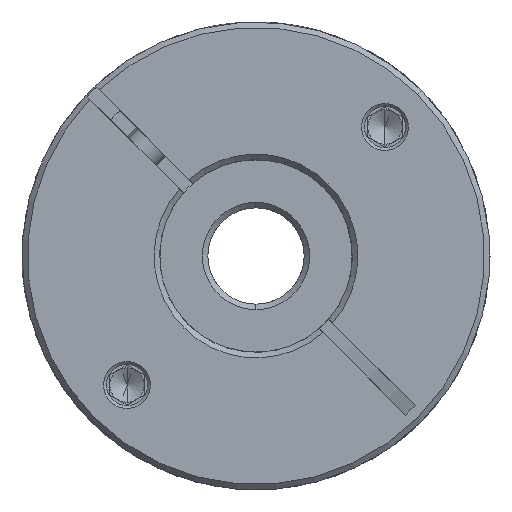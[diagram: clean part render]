
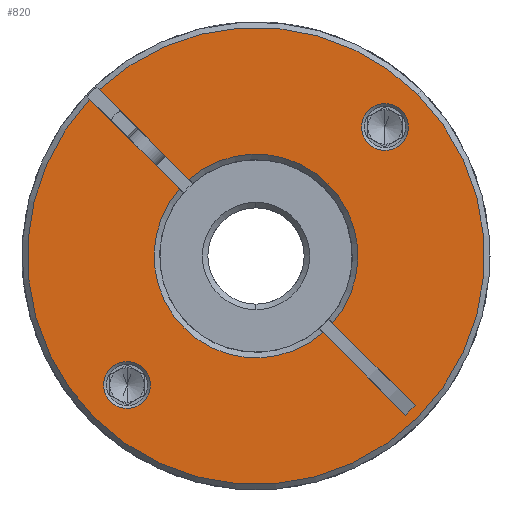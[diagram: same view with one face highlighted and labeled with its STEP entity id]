
A CAD part, front view. The second image highlights one B-rep face of the part: STEP entity #820.
In plain terms, the highlighted planar face has unit normal (0, -1, 0).
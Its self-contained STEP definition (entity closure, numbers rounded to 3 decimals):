
#51 = CARTESIAN_POINT ( 'NONE',  ( -2.735, -67.045, 68. ) ) ;
#187 = CIRCLE ( 'NONE', #16822, 33.2 ) ;
#274 = EDGE_CURVE ( 'NONE', #3658, #8476, #2622, .T. ) ;
#359 = VERTEX_POINT ( 'NONE', #18424 ) ;
#529 = CARTESIAN_POINT ( 'NONE',  ( 13.599, -67.045, 84.334 ) ) ;
#646 = CARTESIAN_POINT ( 'NONE',  ( -2.028, -67.045, 68.707 ) ) ;
#820 = ADVANCED_FACE ( 'NONE', ( #4068, #19927, #11088 ), #7141, .T. ) ;
#1250 = CARTESIAN_POINT ( 'NONE',  ( -2.735, -67.045, 68. ) ) ;
#1651 = AXIS2_PLACEMENT_3D ( 'NONE', #1688, #5143, #6669 ) ;
#1677 = EDGE_CURVE ( 'NONE', #2885, #19173, #17040, .T. ) ;
#1688 = CARTESIAN_POINT ( 'NONE',  ( -21.473, -67.045, 49.262 ) ) ;
#1796 = VECTOR ( 'NONE', #9259, 1000. ) ;
#2036 = DIRECTION ( 'NONE',  ( 0.707, 0., 0.707 ) ) ;
#2134 = CARTESIAN_POINT ( 'NONE',  ( 6.999, -67.045, 56.852 ) ) ;
#2474 = DIRECTION ( 'NONE',  ( 0.707, 0., 0.707 ) ) ;
#2476 = ORIENTED_EDGE ( 'NONE', *, *, #8673, .T. ) ;
#2571 = DIRECTION ( 'NONE',  ( -0.707, 0., -0.707 ) ) ;
#2621 = VECTOR ( 'NONE', #12152, 1000. ) ;
#2622 = CIRCLE ( 'NONE', #1651, 3.4 ) ;
#2885 = VERTEX_POINT ( 'NONE', #10301 ) ;
#3097 = CARTESIAN_POINT ( 'NONE',  ( -23.878, -67.045, 46.858 ) ) ;
#3160 = LINE ( 'NONE', #7143, #2621 ) ;
#3301 = ORIENTED_EDGE ( 'NONE', *, *, #8278, .F. ) ;
#3596 = ORIENTED_EDGE ( 'NONE', *, *, #13777, .T. ) ;
#3658 = VERTEX_POINT ( 'NONE', #16018 ) ;
#3844 = DIRECTION ( 'NONE',  ( 0.707, 0., -0.707 ) ) ;
#3857 = EDGE_CURVE ( 'NONE', #15000, #14480, #20830, .T. ) ;
#3882 = CIRCLE ( 'NONE', #4259, 33.2 ) ;
#4068 = FACE_BOUND ( 'NONE', #11051, .T. ) ;
#4095 = ORIENTED_EDGE ( 'NONE', *, *, #1677, .T. ) ;
#4259 = AXIS2_PLACEMENT_3D ( 'NONE', #51, #11650, #8415 ) ;
#4975 = DIRECTION ( 'NONE',  ( 0., 1., 0. ) ) ;
#4983 = AXIS2_PLACEMENT_3D ( 'NONE', #19344, #20944, #5916 ) ;
#4998 = CARTESIAN_POINT ( 'NONE',  ( 18.988, -67.045, 44.862 ) ) ;
#5143 = DIRECTION ( 'NONE',  ( 0., 1., 0. ) ) ;
#5489 = CARTESIAN_POINT ( 'NONE',  ( 16.003, -67.045, 86.738 ) ) ;
#5667 = AXIS2_PLACEMENT_3D ( 'NONE', #10459, #5832, #9024 ) ;
#5832 = DIRECTION ( 'NONE',  ( 0., -1., 0. ) ) ;
#5837 = VERTEX_POINT ( 'NONE', #16104 ) ;
#5916 = DIRECTION ( 'NONE',  ( 0.707, 0., 0.707 ) ) ;
#5998 = CIRCLE ( 'NONE', #10331, 3.4 ) ;
#6244 = CIRCLE ( 'NONE', #4983, 14.8 ) ;
#6259 = ORIENTED_EDGE ( 'NONE', *, *, #15471, .T. ) ;
#6669 = DIRECTION ( 'NONE',  ( 0.707, 0., 0.707 ) ) ;
#7091 = EDGE_CURVE ( 'NONE', #19173, #7511, #8914, .T. ) ;
#7141 = PLANE ( 'NONE',  #5667 ) ;
#7143 = CARTESIAN_POINT ( 'NONE',  ( -3.442, -67.045, 67.293 ) ) ;
#7490 = ORIENTED_EDGE ( 'NONE', *, *, #15168, .T. ) ;
#7495 = CARTESIAN_POINT ( 'NONE',  ( 18.988, -67.045, 44.862 ) ) ;
#7511 = VERTEX_POINT ( 'NONE', #11217 ) ;
#7549 = DIRECTION ( 'NONE',  ( 0., 1., 0. ) ) ;
#7638 = AXIS2_PLACEMENT_3D ( 'NONE', #14029, #7549, #2474 ) ;
#7781 = CARTESIAN_POINT ( 'NONE',  ( -25.493, -67.045, 92.172 ) ) ;
#7949 = ORIENTED_EDGE ( 'NONE', *, *, #14068, .T. ) ;
#8047 = DIRECTION ( 'NONE',  ( 0., -1., 0. ) ) ;
#8148 = VERTEX_POINT ( 'NONE', #2134 ) ;
#8151 = CARTESIAN_POINT ( 'NONE',  ( -2.735, -67.045, 68. ) ) ;
#8278 = EDGE_CURVE ( 'NONE', #12162, #359, #8709, .T. ) ;
#8314 = DIRECTION ( 'NONE',  ( 0.707, 0., 0.707 ) ) ;
#8415 = DIRECTION ( 'NONE',  ( 0.707, 0., 0.707 ) ) ;
#8434 = VERTEX_POINT ( 'NONE', #7781 ) ;
#8476 = VERTEX_POINT ( 'NONE', #3097 ) ;
#8673 = EDGE_CURVE ( 'NONE', #8476, #3658, #16803, .T. ) ;
#8709 = LINE ( 'NONE', #20509, #13405 ) ;
#8914 = LINE ( 'NONE', #646, #9934 ) ;
#9024 = DIRECTION ( 'NONE',  ( 0.707, 0., 0.707 ) ) ;
#9123 = ORIENTED_EDGE ( 'NONE', *, *, #16347, .T. ) ;
#9259 = DIRECTION ( 'NONE',  ( 0.707, 0., -0.707 ) ) ;
#9820 = EDGE_CURVE ( 'NONE', #7511, #14806, #15468, .T. ) ;
#9859 = DIRECTION ( 'NONE',  ( 0., 1., 0. ) ) ;
#9902 = ORIENTED_EDGE ( 'NONE', *, *, #7091, .T. ) ;
#9934 = VECTOR ( 'NONE', #3844, 1000. ) ;
#10301 = CARTESIAN_POINT ( 'NONE',  ( 7.73, -67.045, 78.465 ) ) ;
#10331 = AXIS2_PLACEMENT_3D ( 'NONE', #11579, #4975, #13395 ) ;
#10459 = CARTESIAN_POINT ( 'NONE',  ( -2.735, -67.045, 68. ) ) ;
#10479 = DIRECTION ( 'NONE',  ( 0.707, 0., 0.707 ) ) ;
#11051 = EDGE_LOOP ( 'NONE', ( #17737, #13207 ) ) ;
#11088 = FACE_OUTER_BOUND ( 'NONE', #15523, .T. ) ;
#11217 = CARTESIAN_POINT ( 'NONE',  ( 20.402, -67.045, 46.277 ) ) ;
#11579 = CARTESIAN_POINT ( 'NONE',  ( 16.003, -67.045, 86.738 ) ) ;
#11634 = EDGE_LOOP ( 'NONE', ( #12996, #2476 ) ) ;
#11650 = DIRECTION ( 'NONE',  ( 0., -1., 0. ) ) ;
#12087 = CIRCLE ( 'NONE', #19305, 33.2 ) ;
#12152 = DIRECTION ( 'NONE',  ( 0.707, 0., -0.707 ) ) ;
#12162 = VERTEX_POINT ( 'NONE', #13656 ) ;
#12329 = EDGE_CURVE ( 'NONE', #14480, #15000, #5998, .T. ) ;
#12667 = CARTESIAN_POINT ( 'NONE',  ( 8.413, -67.045, 58.266 ) ) ;
#12728 = DIRECTION ( 'NONE',  ( 0.707, 0., 0.707 ) ) ;
#12991 = DIRECTION ( 'NONE',  ( 0., 1., 0. ) ) ;
#12996 = ORIENTED_EDGE ( 'NONE', *, *, #274, .T. ) ;
#13155 = EDGE_CURVE ( 'NONE', #17929, #5837, #3882, .T. ) ;
#13207 = ORIENTED_EDGE ( 'NONE', *, *, #12329, .T. ) ;
#13395 = DIRECTION ( 'NONE',  ( 0.707, 0., 0.707 ) ) ;
#13405 = VECTOR ( 'NONE', #19052, 1000. ) ;
#13656 = CARTESIAN_POINT ( 'NONE',  ( -26.908, -67.045, 90.758 ) ) ;
#13777 = EDGE_CURVE ( 'NONE', #12162, #17929, #12087, .T. ) ;
#13847 = CARTESIAN_POINT ( 'NONE',  ( -2.735, -67.045, 68. ) ) ;
#13969 = EDGE_CURVE ( 'NONE', #8148, #14806, #3160, .T. ) ;
#14029 = CARTESIAN_POINT ( 'NONE',  ( -21.473, -67.045, 49.262 ) ) ;
#14068 = EDGE_CURVE ( 'NONE', #8148, #359, #6244, .T. ) ;
#14137 = VECTOR ( 'NONE', #2571, 1000. ) ;
#14480 = VERTEX_POINT ( 'NONE', #529 ) ;
#14806 = VERTEX_POINT ( 'NONE', #4998 ) ;
#15000 = VERTEX_POINT ( 'NONE', #15693 ) ;
#15168 = EDGE_CURVE ( 'NONE', #8434, #17855, #17893, .T. ) ;
#15404 = CARTESIAN_POINT ( 'NONE',  ( -26.211, -67.045, 44.524 ) ) ;
#15468 = LINE ( 'NONE', #7495, #14137 ) ;
#15471 = EDGE_CURVE ( 'NONE', #17855, #2885, #21541, .T. ) ;
#15523 = EDGE_LOOP ( 'NONE', ( #3301, #3596, #19120, #9123, #7490, #6259, #4095, #9902, #16793, #20856, #7949 ) ) ;
#15693 = CARTESIAN_POINT ( 'NONE',  ( 18.407, -67.045, 89.142 ) ) ;
#15880 = AXIS2_PLACEMENT_3D ( 'NONE', #19829, #9859, #8314 ) ;
#16018 = CARTESIAN_POINT ( 'NONE',  ( -19.069, -67.045, 51.666 ) ) ;
#16104 = CARTESIAN_POINT ( 'NONE',  ( 20.741, -67.045, 91.476 ) ) ;
#16347 = EDGE_CURVE ( 'NONE', #5837, #8434, #187, .T. ) ;
#16387 = AXIS2_PLACEMENT_3D ( 'NONE', #5489, #16935, #2036 ) ;
#16793 = ORIENTED_EDGE ( 'NONE', *, *, #9820, .T. ) ;
#16803 = CIRCLE ( 'NONE', #7638, 3.4 ) ;
#16822 = AXIS2_PLACEMENT_3D ( 'NONE', #13847, #20252, #10479 ) ;
#16935 = DIRECTION ( 'NONE',  ( 0., 1., 0. ) ) ;
#17040 = CIRCLE ( 'NONE', #15880, 14.8 ) ;
#17380 = AXIS2_PLACEMENT_3D ( 'NONE', #8151, #12991, #19808 ) ;
#17737 = ORIENTED_EDGE ( 'NONE', *, *, #3857, .T. ) ;
#17855 = VERTEX_POINT ( 'NONE', #20529 ) ;
#17893 = LINE ( 'NONE', #19235, #1796 ) ;
#17929 = VERTEX_POINT ( 'NONE', #15404 ) ;
#18424 = CARTESIAN_POINT ( 'NONE',  ( -13.883, -67.045, 77.734 ) ) ;
#19052 = DIRECTION ( 'NONE',  ( 0.707, 0., -0.707 ) ) ;
#19120 = ORIENTED_EDGE ( 'NONE', *, *, #13155, .T. ) ;
#19173 = VERTEX_POINT ( 'NONE', #12667 ) ;
#19235 = CARTESIAN_POINT ( 'NONE',  ( -2.028, -67.045, 68.707 ) ) ;
#19305 = AXIS2_PLACEMENT_3D ( 'NONE', #1250, #8047, #12728 ) ;
#19344 = CARTESIAN_POINT ( 'NONE',  ( -2.735, -67.045, 68. ) ) ;
#19808 = DIRECTION ( 'NONE',  ( 0.707, 0., 0.707 ) ) ;
#19829 = CARTESIAN_POINT ( 'NONE',  ( -2.735, -67.045, 68. ) ) ;
#19927 = FACE_BOUND ( 'NONE', #11634, .T. ) ;
#20252 = DIRECTION ( 'NONE',  ( 0., -1., 0. ) ) ;
#20509 = CARTESIAN_POINT ( 'NONE',  ( -3.442, -67.045, 67.293 ) ) ;
#20529 = CARTESIAN_POINT ( 'NONE',  ( -12.469, -67.045, 79.148 ) ) ;
#20830 = CIRCLE ( 'NONE', #16387, 3.4 ) ;
#20856 = ORIENTED_EDGE ( 'NONE', *, *, #13969, .F. ) ;
#20944 = DIRECTION ( 'NONE',  ( 0., 1., 0. ) ) ;
#21541 = CIRCLE ( 'NONE', #17380, 14.8 ) ;
